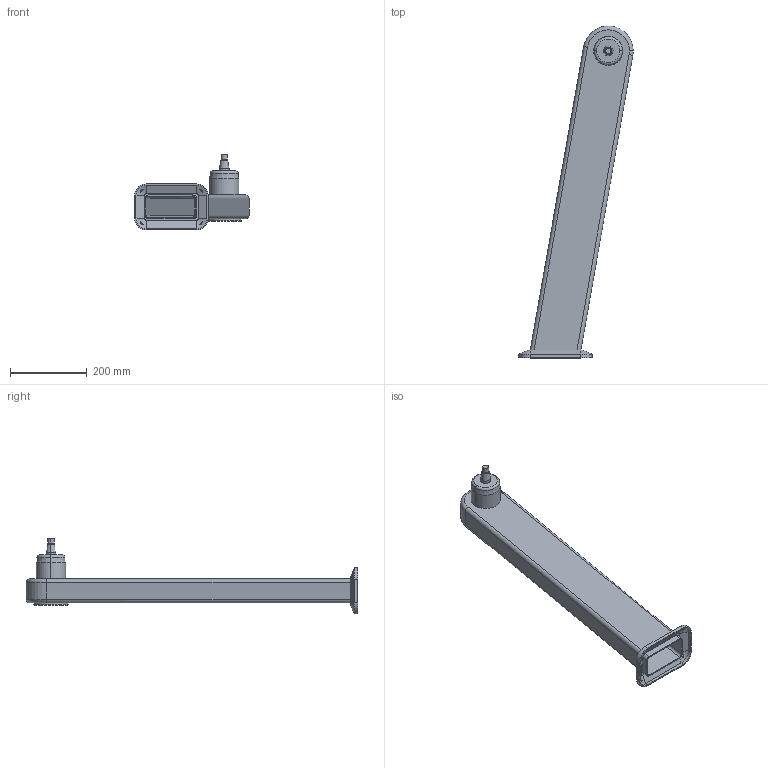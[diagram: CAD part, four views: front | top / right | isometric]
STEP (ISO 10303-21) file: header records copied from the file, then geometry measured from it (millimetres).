
FILE_DESCRIPTION (( 'STEP AP214' ), '1' );
FILE_NAME ('WP710_H800_+10.STEP', '2014-06-27T07:55:57', ( '' ), ( '' ), 'SwSTEP 2.0', 'SolidWorks 2014', '' );
FILE_SCHEMA (( 'AUTOMOTIVE_DESIGN' ));
Length unit declared in the file: millimetre
Products named in the file (1): WP710_H800_+10
Bounding box: 298.04 x 865 x 198 mm (x, y, z)
Volume: 1357096.3 mm3; surface area: 689892.5 mm2
Topology: 1 solids, 1 shells, 114 faces, 256 edges, 156 vertices
Faces by surface type: cylinder 42, plane 40, cone 20, torus 12
Entity records: 3285 total; most frequent: CARTESIAN_POINT 680, DIRECTION 570, ORIENTED_EDGE 512, EDGE_CURVE 256, AXIS2_PLACEMENT_3D 221, VERTEX_POINT 156, LINE 128, VECTOR 128
